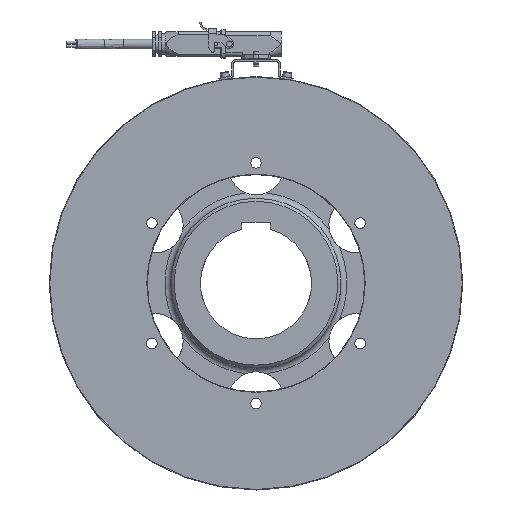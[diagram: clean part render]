
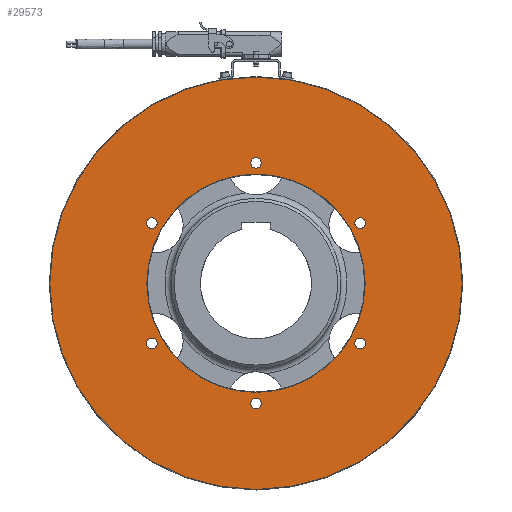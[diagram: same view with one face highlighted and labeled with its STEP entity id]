
A CAD part, left-side view. The second image highlights one B-rep face of the part: STEP entity #29573.
In plain terms, the highlighted planar face has unit normal (-1, 0, 0).
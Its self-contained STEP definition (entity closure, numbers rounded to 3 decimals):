
#304=FACE_BOUND('',#3373,.T.);
#305=FACE_BOUND('',#3374,.T.);
#306=FACE_BOUND('',#3375,.T.);
#307=FACE_BOUND('',#3376,.T.);
#308=FACE_BOUND('',#3377,.T.);
#309=FACE_BOUND('',#3378,.T.);
#310=FACE_BOUND('',#3379,.T.);
#592=PLANE('',#31631);
#1792=FACE_OUTER_BOUND('',#3372,.T.);
#3372=EDGE_LOOP('',(#20172,#20173,#20174));
#3373=EDGE_LOOP('',(#20175,#20176));
#3374=EDGE_LOOP('',(#20177,#20178));
#3375=EDGE_LOOP('',(#20179,#20180));
#3376=EDGE_LOOP('',(#20181,#20182));
#3377=EDGE_LOOP('',(#20183,#20184));
#3378=EDGE_LOOP('',(#20185,#20186));
#3379=EDGE_LOOP('',(#20187));
#4860=CIRCLE('',#30881,204.);
#4861=CIRCLE('',#30882,204.);
#5362=CIRCLE('',#31632,204.);
#5363=CIRCLE('',#31633,5.25);
#5364=CIRCLE('',#31634,5.25);
#5365=CIRCLE('',#31635,5.25);
#5366=CIRCLE('',#31636,5.25);
#5367=CIRCLE('',#31637,5.25);
#5368=CIRCLE('',#31638,5.25);
#5369=CIRCLE('',#31639,5.25);
#5370=CIRCLE('',#31640,5.25);
#5371=CIRCLE('',#31641,5.25);
#5372=CIRCLE('',#31642,5.25);
#5373=CIRCLE('',#31643,5.25);
#5374=CIRCLE('',#31644,5.25);
#5375=CIRCLE('',#31645,108.);
#11474=VERTEX_POINT('',#42684);
#11481=VERTEX_POINT('',#42698);
#11482=VERTEX_POINT('',#42700);
#12019=VERTEX_POINT('',#44543);
#12020=VERTEX_POINT('',#44544);
#12021=VERTEX_POINT('',#44547);
#12022=VERTEX_POINT('',#44548);
#12023=VERTEX_POINT('',#44551);
#12024=VERTEX_POINT('',#44552);
#12025=VERTEX_POINT('',#44555);
#12026=VERTEX_POINT('',#44556);
#12027=VERTEX_POINT('',#44559);
#12028=VERTEX_POINT('',#44560);
#12029=VERTEX_POINT('',#44563);
#12030=VERTEX_POINT('',#44564);
#12031=VERTEX_POINT('',#44567);
#14361=EDGE_CURVE('',#11482,#11481,#4860,.T.);
#14362=EDGE_CURVE('',#11474,#11482,#4861,.T.);
#15169=EDGE_CURVE('',#11481,#11474,#5362,.T.);
#15170=EDGE_CURVE('',#12019,#12020,#5363,.T.);
#15171=EDGE_CURVE('',#12020,#12019,#5364,.T.);
#15172=EDGE_CURVE('',#12021,#12022,#5365,.T.);
#15173=EDGE_CURVE('',#12022,#12021,#5366,.T.);
#15174=EDGE_CURVE('',#12023,#12024,#5367,.T.);
#15175=EDGE_CURVE('',#12024,#12023,#5368,.T.);
#15176=EDGE_CURVE('',#12025,#12026,#5369,.T.);
#15177=EDGE_CURVE('',#12026,#12025,#5370,.T.);
#15178=EDGE_CURVE('',#12027,#12028,#5371,.T.);
#15179=EDGE_CURVE('',#12028,#12027,#5372,.T.);
#15180=EDGE_CURVE('',#12029,#12030,#5373,.T.);
#15181=EDGE_CURVE('',#12030,#12029,#5374,.T.);
#15182=EDGE_CURVE('',#12031,#12031,#5375,.T.);
#20172=ORIENTED_EDGE('',*,*,#14361,.T.);
#20173=ORIENTED_EDGE('',*,*,#15169,.T.);
#20174=ORIENTED_EDGE('',*,*,#14362,.T.);
#20175=ORIENTED_EDGE('',*,*,#15170,.T.);
#20176=ORIENTED_EDGE('',*,*,#15171,.T.);
#20177=ORIENTED_EDGE('',*,*,#15172,.T.);
#20178=ORIENTED_EDGE('',*,*,#15173,.T.);
#20179=ORIENTED_EDGE('',*,*,#15174,.T.);
#20180=ORIENTED_EDGE('',*,*,#15175,.T.);
#20181=ORIENTED_EDGE('',*,*,#15176,.T.);
#20182=ORIENTED_EDGE('',*,*,#15177,.T.);
#20183=ORIENTED_EDGE('',*,*,#15178,.T.);
#20184=ORIENTED_EDGE('',*,*,#15179,.T.);
#20185=ORIENTED_EDGE('',*,*,#15180,.T.);
#20186=ORIENTED_EDGE('',*,*,#15181,.T.);
#20187=ORIENTED_EDGE('',*,*,#15182,.F.);
#29573=ADVANCED_FACE('',(#1792,#304,#305,#306,#307,#308,#309,#310),#592,
 .T.);
#30881=AXIS2_PLACEMENT_3D('',#42701,#33990,#33991);
#30882=AXIS2_PLACEMENT_3D('',#42702,#33992,#33993);
#31631=AXIS2_PLACEMENT_3D('',#44541,#35756,#35757);
#31632=AXIS2_PLACEMENT_3D('',#44542,#35758,#35759);
#31633=AXIS2_PLACEMENT_3D('',#44545,#35760,#35761);
#31634=AXIS2_PLACEMENT_3D('',#44546,#35762,#35763);
#31635=AXIS2_PLACEMENT_3D('',#44549,#35764,#35765);
#31636=AXIS2_PLACEMENT_3D('',#44550,#35766,#35767);
#31637=AXIS2_PLACEMENT_3D('',#44553,#35768,#35769);
#31638=AXIS2_PLACEMENT_3D('',#44554,#35770,#35771);
#31639=AXIS2_PLACEMENT_3D('',#44557,#35772,#35773);
#31640=AXIS2_PLACEMENT_3D('',#44558,#35774,#35775);
#31641=AXIS2_PLACEMENT_3D('',#44561,#35776,#35777);
#31642=AXIS2_PLACEMENT_3D('',#44562,#35778,#35779);
#31643=AXIS2_PLACEMENT_3D('',#44565,#35780,#35781);
#31644=AXIS2_PLACEMENT_3D('',#44566,#35782,#35783);
#31645=AXIS2_PLACEMENT_3D('',#44568,#35784,#35785);
#33990=DIRECTION('center_axis',(-1.,0.,0.));
#33991=DIRECTION('ref_axis',(0.,1.,0.));
#33992=DIRECTION('center_axis',(-1.,0.,0.));
#33993=DIRECTION('ref_axis',(0.,1.,0.));
#35756=DIRECTION('center_axis',(-1.,0.,0.));
#35757=DIRECTION('ref_axis',(0.,0.,
1.));
#35758=DIRECTION('center_axis',(-1.,0.,0.));
#35759=DIRECTION('ref_axis',(0.,1.,0.));
#35760=DIRECTION('center_axis',(1.,0.,0.));
#35761=DIRECTION('ref_axis',(0.,1.,0.));
#35762=DIRECTION('center_axis',(1.,0.,0.));
#35763=DIRECTION('ref_axis',(0.,1.,0.));
#35764=DIRECTION('center_axis',(1.,0.,0.));
#35765=DIRECTION('ref_axis',(0.,1.,0.));
#35766=DIRECTION('center_axis',(1.,0.,0.));
#35767=DIRECTION('ref_axis',(0.,1.,0.));
#35768=DIRECTION('center_axis',(1.,0.,0.));
#35769=DIRECTION('ref_axis',(0.,1.,0.));
#35770=DIRECTION('center_axis',(1.,0.,0.));
#35771=DIRECTION('ref_axis',(0.,1.,0.));
#35772=DIRECTION('center_axis',(1.,0.,0.));
#35773=DIRECTION('ref_axis',(0.,1.,0.));
#35774=DIRECTION('center_axis',(1.,0.,0.));
#35775=DIRECTION('ref_axis',(0.,1.,0.));
#35776=DIRECTION('center_axis',(1.,0.,0.));
#35777=DIRECTION('ref_axis',(0.,1.,0.));
#35778=DIRECTION('center_axis',(1.,0.,0.));
#35779=DIRECTION('ref_axis',(0.,1.,0.));
#35780=DIRECTION('center_axis',(1.,0.,0.));
#35781=DIRECTION('ref_axis',(0.,1.,0.));
#35782=DIRECTION('center_axis',(1.,0.,0.));
#35783=DIRECTION('ref_axis',(0.,1.,0.));
#35784=DIRECTION('center_axis',(-1.,0.,0.));
#35785=DIRECTION('ref_axis',(0.,-1.,0.));
#42684=CARTESIAN_POINT('',(-25.65,35.424,200.901));
#42698=CARTESIAN_POINT('',(-25.65,-204.,0.));
#42700=CARTESIAN_POINT('',(-25.65,204.,0.));
#42701=CARTESIAN_POINT('Origin',(-25.65,0.,
0.));
#42702=CARTESIAN_POINT('Origin',(-25.65,0.,
0.));
#44541=CARTESIAN_POINT('Origin',(-25.65,155.75,0.));
#44542=CARTESIAN_POINT('Origin',(-25.65,0.,
0.));
#44543=CARTESIAN_POINT('',(-25.65,-97.807,-59.5));
#44544=CARTESIAN_POINT('',(-25.65,-108.307,-59.5));
#44545=CARTESIAN_POINT('Origin',(-25.65,-103.057,-59.5));
#44546=CARTESIAN_POINT('Origin',(-25.65,-103.057,-59.5));
#44547=CARTESIAN_POINT('',(-25.65,108.307,-59.5));
#44548=CARTESIAN_POINT('',(-25.65,97.807,-59.5));
#44549=CARTESIAN_POINT('Origin',(-25.65,103.057,-59.5));
#44550=CARTESIAN_POINT('Origin',(-25.65,103.057,-59.5));
#44551=CARTESIAN_POINT('',(-25.65,5.25,119.));
#44552=CARTESIAN_POINT('',(-25.65,-5.25,119.));
#44553=CARTESIAN_POINT('Origin',(-25.65,0.,119.));
#44554=CARTESIAN_POINT('Origin',(-25.65,0.,119.));
#44555=CARTESIAN_POINT('',(-25.65,108.307,59.5));
#44556=CARTESIAN_POINT('',(-25.65,97.807,59.5));
#44557=CARTESIAN_POINT('Origin',(-25.65,103.057,59.5));
#44558=CARTESIAN_POINT('Origin',(-25.65,103.057,59.5));
#44559=CARTESIAN_POINT('',(-25.65,5.25,-119.));
#44560=CARTESIAN_POINT('',(-25.65,-5.25,-119.));
#44561=CARTESIAN_POINT('Origin',(-25.65,0.,-119.));
#44562=CARTESIAN_POINT('Origin',(-25.65,0.,-119.));
#44563=CARTESIAN_POINT('',(-25.65,-97.807,59.5));
#44564=CARTESIAN_POINT('',(-25.65,-108.307,59.5));
#44565=CARTESIAN_POINT('Origin',(-25.65,-103.057,59.5));
#44566=CARTESIAN_POINT('Origin',(-25.65,-103.057,59.5));
#44567=CARTESIAN_POINT('',(-25.65,108.,0.));
#44568=CARTESIAN_POINT('Origin',(-25.65,0.,0.));
